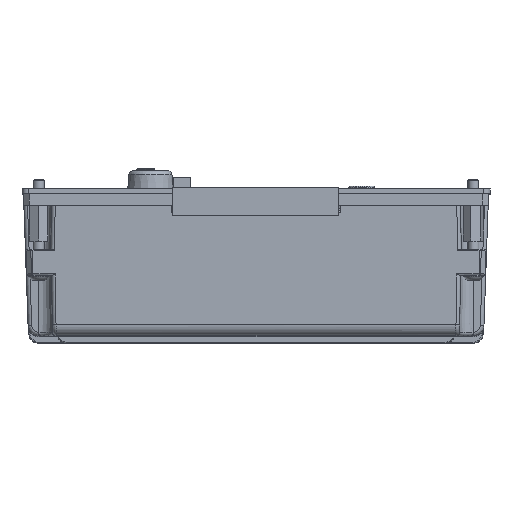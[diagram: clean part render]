
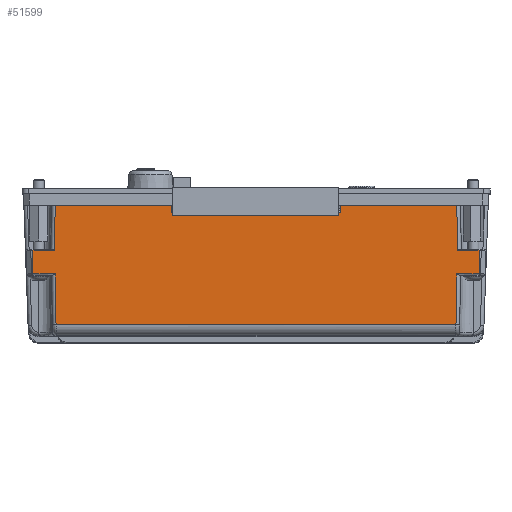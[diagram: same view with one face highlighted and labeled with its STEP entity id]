
A CAD part, top view. The second image highlights one B-rep face of the part: STEP entity #51599.
In plain terms, the highlighted planar face has unit normal (0, -0.009, 1).
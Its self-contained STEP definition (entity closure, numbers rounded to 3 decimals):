
#4701=LINE('',#86340,#7341);
#4715=LINE('',#86512,#7355);
#4727=LINE('',#86574,#7367);
#4757=LINE('',#86720,#7397);
#4775=LINE('',#86790,#7415);
#4837=LINE('',#87020,#7477);
#4838=LINE('',#87022,#7478);
#4839=LINE('',#87023,#7479);
#4840=LINE('',#87025,#7480);
#4841=LINE('',#87027,#7481);
#4842=LINE('',#87028,#7482);
#4843=LINE('',#87030,#7483);
#4844=LINE('',#87031,#7484);
#4845=LINE('',#87033,#7485);
#4846=LINE('',#87034,#7486);
#4847=LINE('',#87036,#7487);
#7341=VECTOR('',#62718,1000.);
#7355=VECTOR('',#62778,1000.);
#7367=VECTOR('',#62804,1000.);
#7397=VECTOR('',#62868,1000.);
#7415=VECTOR('',#62922,1000.);
#7477=VECTOR('',#63058,1000.);
#7478=VECTOR('',#63059,1000.);
#7479=VECTOR('',#63060,1000.);
#7480=VECTOR('',#63061,1000.);
#7481=VECTOR('',#63062,1000.);
#7482=VECTOR('',#63063,1000.);
#7483=VECTOR('',#63064,1000.);
#7484=VECTOR('',#63065,1000.);
#7485=VECTOR('',#63066,1000.);
#7486=VECTOR('',#63067,1000.);
#7487=VECTOR('',#63068,1000.);
#13972=ORIENTED_EDGE('',*,*,#24825,.T.);
#13973=ORIENTED_EDGE('',*,*,#25071,.T.);
#13974=ORIENTED_EDGE('',*,*,#25072,.T.);
#13975=ORIENTED_EDGE('',*,*,#24972,.F.);
#13976=ORIENTED_EDGE('',*,*,#25073,.T.);
#13977=ORIENTED_EDGE('',*,*,#25074,.T.);
#13978=ORIENTED_EDGE('',*,*,#25075,.T.);
#13979=ORIENTED_EDGE('',*,*,#24936,.F.);
#13980=ORIENTED_EDGE('',*,*,#25076,.T.);
#13981=ORIENTED_EDGE('',*,*,#25077,.T.);
#13982=ORIENTED_EDGE('',*,*,#24866,.T.);
#13983=ORIENTED_EDGE('',*,*,#25078,.T.);
#13984=ORIENTED_EDGE('',*,*,#25079,.T.);
#13985=ORIENTED_EDGE('',*,*,#24888,.T.);
#13986=ORIENTED_EDGE('',*,*,#25080,.T.);
#13987=ORIENTED_EDGE('',*,*,#25081,.T.);
#24825=EDGE_CURVE('',#30764,#30763,#4701,.T.);
#24866=EDGE_CURVE('',#30799,#30800,#4715,.F.);
#24888=EDGE_CURVE('',#30820,#30819,#4727,.T.);
#24936=EDGE_CURVE('',#30856,#30857,#4757,.F.);
#24972=EDGE_CURVE('',#30890,#30891,#4775,.F.);
#25071=EDGE_CURVE('',#30763,#30982,#4837,.F.);
#25072=EDGE_CURVE('',#30982,#30891,#4838,.F.);
#25073=EDGE_CURVE('',#30890,#30983,#4839,.T.);
#25074=EDGE_CURVE('',#30983,#30984,#4840,.T.);
#25075=EDGE_CURVE('',#30984,#30857,#4841,.T.);
#25076=EDGE_CURVE('',#30856,#30985,#4842,.F.);
#25077=EDGE_CURVE('',#30985,#30799,#4843,.F.);
#25078=EDGE_CURVE('',#30800,#30986,#4844,.F.);
#25079=EDGE_CURVE('',#30986,#30820,#4845,.F.);
#25080=EDGE_CURVE('',#30819,#30987,#4846,.F.);
#25081=EDGE_CURVE('',#30987,#30764,#4847,.F.);
#30763=VERTEX_POINT('',#86339);
#30764=VERTEX_POINT('',#86341);
#30799=VERTEX_POINT('',#86513);
#30800=VERTEX_POINT('',#86514);
#30819=VERTEX_POINT('',#86573);
#30820=VERTEX_POINT('',#86575);
#30856=VERTEX_POINT('',#86719);
#30857=VERTEX_POINT('',#86721);
#30890=VERTEX_POINT('',#86789);
#30891=VERTEX_POINT('',#86791);
#30982=VERTEX_POINT('',#87021);
#30983=VERTEX_POINT('',#87024);
#30984=VERTEX_POINT('',#87026);
#30985=VERTEX_POINT('',#87029);
#30986=VERTEX_POINT('',#87032);
#30987=VERTEX_POINT('',#87035);
#36414=EDGE_LOOP('',(#13972,#13973,#13974,#13975,#13976,#13977,#13978,#13979,
#13980,#13981,#13982,#13983,#13984,#13985,#13986,#13987));
#39600=FACE_BOUND('',#36414,.T.);
#42409=PLANE('',#55236);
#51599=ADVANCED_FACE('',(#39600),#42409,.T.);
#55236=AXIS2_PLACEMENT_3D('',#87019,#63056,#63057);
#62718=DIRECTION('',(0.041,0.999,0.009));
#62778=DIRECTION('',(-0.041,0.999,0.009));
#62804=DIRECTION('',(1.,0.,0.));
#62868=DIRECTION('',(-1.,0.,0.));
#62922=DIRECTION('',(-1.,0.,0.));
#63056=DIRECTION('',(0.,-0.009,1.));
#63057=DIRECTION('',(0.,-1.,-0.009));
#63058=DIRECTION('',(1.,0.,0.));
#63059=DIRECTION('',(0.017,-1.,-0.009));
#63060=DIRECTION('',(-0.035,-0.999,-0.009));
#63061=DIRECTION('',(-1.,0.,0.));
#63062=DIRECTION('',(-0.035,0.999,0.009));
#63063=DIRECTION('',(0.017,1.,0.009));
#63064=DIRECTION('',(1.,0.,0.));
#63065=DIRECTION('',(-1.,0.,0.));
#63066=DIRECTION('',(-0.017,1.,0.009));
#63067=DIRECTION('',(-0.017,-1.,-0.009));
#63068=DIRECTION('',(-1.,0.,0.));
#86339=CARTESIAN_POINT('',(60.792,-17.803,-93.857));
#86340=CARTESIAN_POINT('',(61.192,-7.988,-93.772));
#86341=CARTESIAN_POINT('',(60.532,-24.203,-93.913));
#86512=CARTESIAN_POINT('',(-61.192,-7.988,-93.772));
#86513=CARTESIAN_POINT('',(-60.792,-17.803,-93.857));
#86514=CARTESIAN_POINT('',(-60.532,-24.203,-93.913));
#86573=CARTESIAN_POINT('',(54.264,-38.026,-94.034));
#86574=CARTESIAN_POINT('',(0.,-38.026,-94.034));
#86575=CARTESIAN_POINT('',(-54.264,-38.026,-94.034));
#86719=CARTESIAN_POINT('',(-54.49,-5.5,-93.75));
#86720=CARTESIAN_POINT('',(0.,-5.5,-93.75));
#86721=CARTESIAN_POINT('',(-23.,-5.5,-93.75));
#86789=CARTESIAN_POINT('',(23.,-5.5,-93.75));
#86790=CARTESIAN_POINT('',(0.,-5.5,-93.75));
#86791=CARTESIAN_POINT('',(54.49,-5.5,-93.75));
#87019=CARTESIAN_POINT('',(0.,-5.5,-93.75));
#87020=CARTESIAN_POINT('',(54.7,-17.803,-93.857));
#87021=CARTESIAN_POINT('',(54.705,-17.803,-93.857));
#87022=CARTESIAN_POINT('',(54.474,-4.549,-93.742));
#87023=CARTESIAN_POINT('',(22.972,-6.302,-93.757));
#87024=CARTESIAN_POINT('',(22.93,-7.504,-93.767));
#87025=CARTESIAN_POINT('',(0.,-7.504,-93.767));
#87026=CARTESIAN_POINT('',(-22.93,-7.504,-93.767));
#87027=CARTESIAN_POINT('',(-22.972,-6.302,-93.757));
#87028=CARTESIAN_POINT('',(-54.474,-4.549,-93.742));
#87029=CARTESIAN_POINT('',(-54.705,-17.803,-93.857));
#87030=CARTESIAN_POINT('',(-60.805,-17.803,-93.857));
#87031=CARTESIAN_POINT('',(-54.5,-24.203,-93.913));
#87032=CARTESIAN_POINT('',(-54.505,-24.203,-93.913));
#87033=CARTESIAN_POINT('',(-54.815,-6.457,-93.758));
#87034=CARTESIAN_POINT('',(54.815,-6.457,-93.758));
#87035=CARTESIAN_POINT('',(54.505,-24.203,-93.913));
#87036=CARTESIAN_POINT('',(60.52,-24.203,-93.913));
